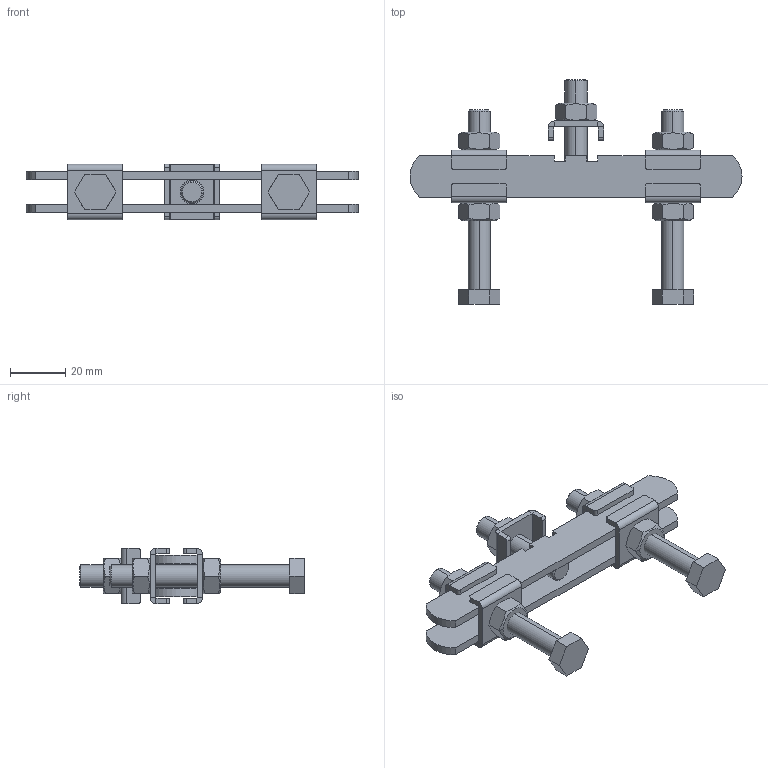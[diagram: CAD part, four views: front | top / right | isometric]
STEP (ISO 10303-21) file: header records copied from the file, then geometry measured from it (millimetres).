
FILE_DESCRIPTION (( 'STEP AP203' ), '1' );
FILE_NAME ('PSD-M8.STEP', '2011-09-15T17:12:53', ( 'Usuario' ), ( '' ), 'SwSTEP 2.0', 'SolidWorks 2011', '' );
FILE_SCHEMA (( 'CONFIG_CONTROL_DESIGN' ));
Length unit declared in the file: millimetre
Products named in the file (6): PSD-M8; 10.20001; 20.10001; 11.50002; 14.10001; 12.50020
Assembly tree (15 placements, depth 2):
  PSD-M8
    14.10001  x5
    12.50020  x2
    11.50002  x5
    10.20001
    20.10001  x2
Bounding box: 120 x 81.3 x 20 mm (x, y, z)
Volume: 29324.9 mm3; surface area: 23542.1 mm2
Topology: 15 solids, 15 shells, 294 faces, 678 edges, 416 vertices
Faces by surface type: plane 174, cylinder 72, cone 48
Entity records: 3339 total; most frequent: CARTESIAN_POINT 527, DIRECTION 431, ORIENTED_EDGE 374, EDGE_CURVE 187, AXIS2_PLACEMENT_3D 156, VECTOR 119, LINE 119, VERTEX_POINT 116
